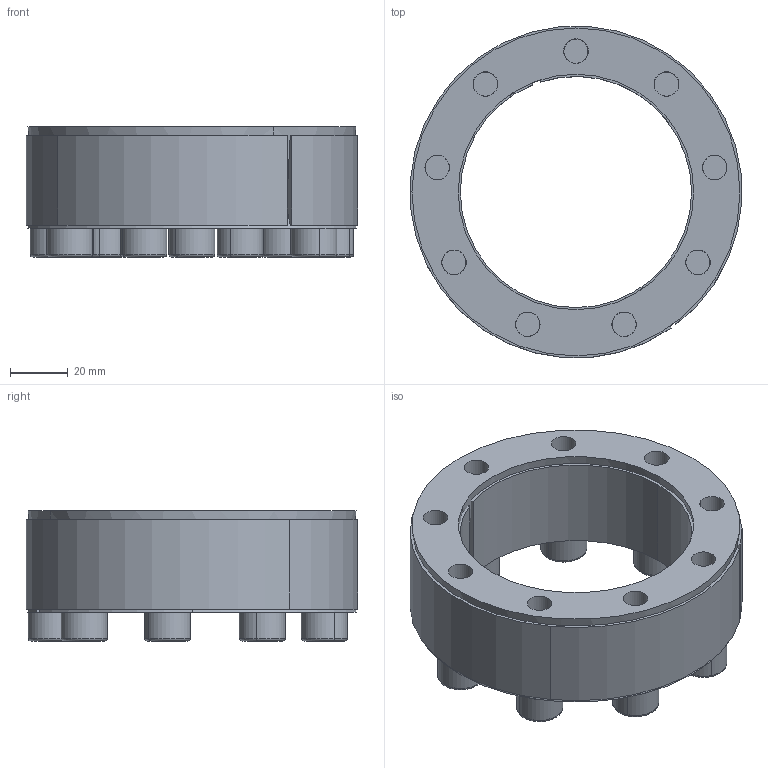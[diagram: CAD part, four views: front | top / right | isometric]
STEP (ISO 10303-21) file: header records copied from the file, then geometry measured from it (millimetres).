
FILE_DESCRIPTION (( 'STEP AP214' ), '1' );
FILE_NAME ('CONEX-L-80x115.step', '2013-04-06T13:23:25', ( 'Pc' ), ( '' ), 'SwSTEP 2.0', 'SolidWorks 2013', '' );
FILE_SCHEMA (( 'AUTOMOTIVE_DESIGN' ));
Length unit declared in the file: millimetre
Products named in the file (1): CONEX-L-80x115
Bounding box: 114.71 x 114.64 x 45.03 mm (x, y, z)
Volume: 178185.9 mm3; surface area: 92281 mm2
Topology: 12 solids, 12 shells, 318 faces, 727 edges, 433 vertices
Faces by surface type: plane 146, cylinder 84, cone 52, torus 36
Entity records: 12541 total; most frequent: DIRECTION 1680, CARTESIAN_POINT 1497, ORIENTED_EDGE 1418, EDGE_CURVE 709, AXIS2_PLACEMENT_3D 660, VERTEX_POINT 433, EDGE_LOOP 380, VECTOR 360
